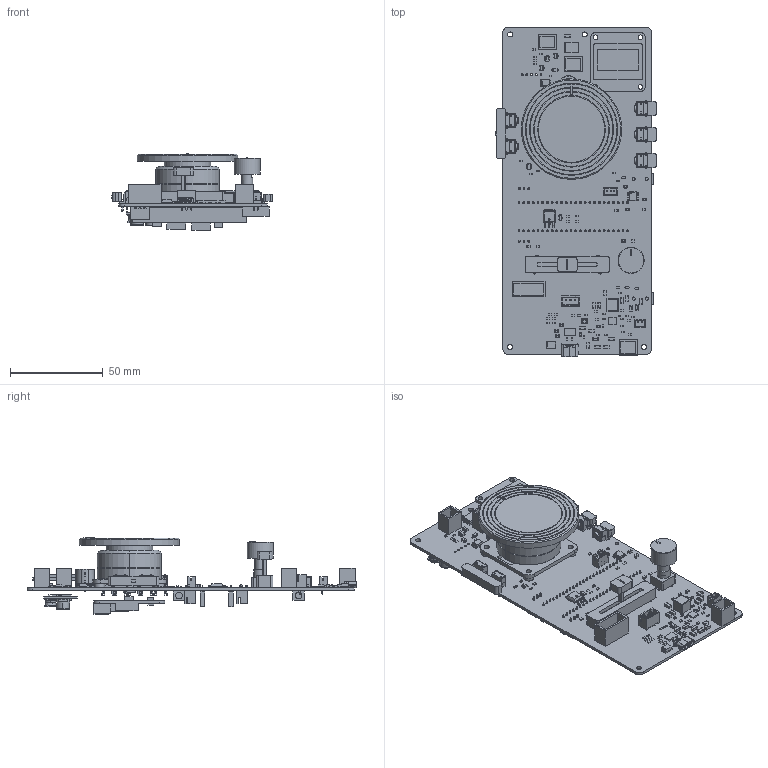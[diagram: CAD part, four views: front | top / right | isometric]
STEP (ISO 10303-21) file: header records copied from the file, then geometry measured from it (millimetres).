
FILE_DESCRIPTION(('KiCad electronic assembly'),'2;1');
FILE_NAME('DSH-5-RevD-Board.step','2026-11-21T14:29:40',('Pcbnew'),( 'Kicad'),'Open CASCADE STEP processor 7.9','KiCad to STEP converter' ,'Unknown');
FILE_SCHEMA(('AUTOMOTIVE_DESIGN { 1 0 10303 214 1 1 1 1 }'));
Length unit declared in the file: millimetre
Products named in the file (115): DSH-5-RevD-Board 1; Level_PTV09; Pot body; Bushing; D shaft; Knob; Cap; Index; R_0603_1608Metric; D_SOD-323; C_0603_1608Metric; JST_VH_2P; d439e862-e5e1-11f1-bb71-8157894c7c6c; D_SMC; D_SOD-123; SW_Tactile_SPST_Angled_PTS645Vx39-2LFS; Crossfader_PTA3043; Metal body; Lever; TSOT-23-8; C_0805_2012Metric; JST_PH_B3B-PH-K_1x03_P2.00mm_Vertical; JST_B3B_PH_K; USB_C_Receptacle_GCT_USB4125-xx-x_6P_TopMnt_Horizontal; C_1206_3216Metric; C_0402_1005Metric; D_SMB; SOT-23; OLED_Adafruit_326; Breakout PCB; Mounting header; Glass; Active area; CP_Radial_D10.0mm_P5.00mm; CP_Radial_D100mm_P500mm; SOIC-8_3.9x4.9mm_P1.27mm; Speed_seesaw; Pivoting rocker cap fit model; Center index; Scratch_wheel_GL30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
Assembly tree (199 placements, depth 6):
  DSH-5-RevD-Board 1
    Level_PTV09
      Level_PTV09
        Pot body
        Bushing
        D shaft
        Knob
        Cap
        Index
    R_0603_1608Metric  x32
      R_0603_1608Metric
    D_SOD-323  x4
      D_SOD-323
    C_0603_1608Metric  x14
      C_0603_1608Metric
    JST_VH_2P  x3
      JST_VH_2P
        d439e862-e5e1-11f1-bb71-8157894c7c6c
    D_SMC
      D_SMC
    D_SOD-123
      D_SOD-123
    SW_Tactile_SPST_Angled_PTS645Vx39-2LFS  x5
      SW_Tactile_SPST_Angled_PTS645Vx39-2LFS
    Crossfader_PTA3043
      Crossfader_PTA3043
        Metal body
        Lever
        Cap
        Index
    TSOT-23-8
      TSOT-23-8
    C_0805_2012Metric  x9
      C_0805_2012Metric
    JST_PH_B3B-PH-K_1x03_P2.00mm_Vertical
      JST_B3B_PH_K
    USB_C_Receptacle_GCT_USB4125-xx-x_6P_TopMnt_Horizontal
      USB_C_Receptacle_GCT_USB4125-xx-x_6P_TopMnt_Horizontal
    C_1206_3216Metric  x14
      C_1206_3216Metric
    C_0402_1005Metric
      C_0402_1005Metric
    D_SMB  x2
      D_SMB
    SOT-23  x3
      SOT-23
    OLED_Adafruit_326
      OLED_Adafruit_326
        Breakout PCB
        Mounting header
        Glass
        Active area
    CP_Radial_D10.0mm_P5.00mm
      CP_Radial_D100mm_P500mm
    SOIC-8_3.9x4.9mm_P1.27mm
      SOIC-8_3.9x4.9mm_P1.27mm
    Speed_seesaw
      Speed_seesaw
        Pivoting rocker cap fit model
        Center index
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Bounding box: 86.17 x 177.4 x 41.11 mm (x, y, z)
Volume: 61141.1 mm3; surface area: 78812.4 mm2
Topology: 174 solids, 175 shells, 8291 faces, 21585 edges, 14020 vertices
Faces by surface type: plane 5995, cylinder 1829, bspline 393, torus 28, sphere 24, cone 18, revolution 4
Full cylindrical faces by diameter (mm): 0.2 x8, 0.65 x12, 0.7 x2, 0.75 x5, 0.8 x27, 0.9 x20, 0.95 x9, 0.99 x10, 1 x82, 1.02 x5, 1.2 x13, 1.3 x10, 1.7 x18, 2 x5, 2.2 x2, 2.5 x4, 2.55 x4, 2.7 x20, 3.14 x5, 3.2 x4, 3.25 x3, 3.5 x5, 3.6 x2, 4 x1, 5.4 x4, 6 x1, 6.2 x1, 6.35 x1, 7 x1, 8.5 x1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
Entity records: 174722 total; most frequent: CARTESIAN_POINT 33461, ORIENTED_EDGE 24311, DIRECTION 22681, EDGE_CURVE 12148, LINE 9521, VECTOR 9521, VERTEX_POINT 7860, AXIS2_PLACEMENT_3D 6578
